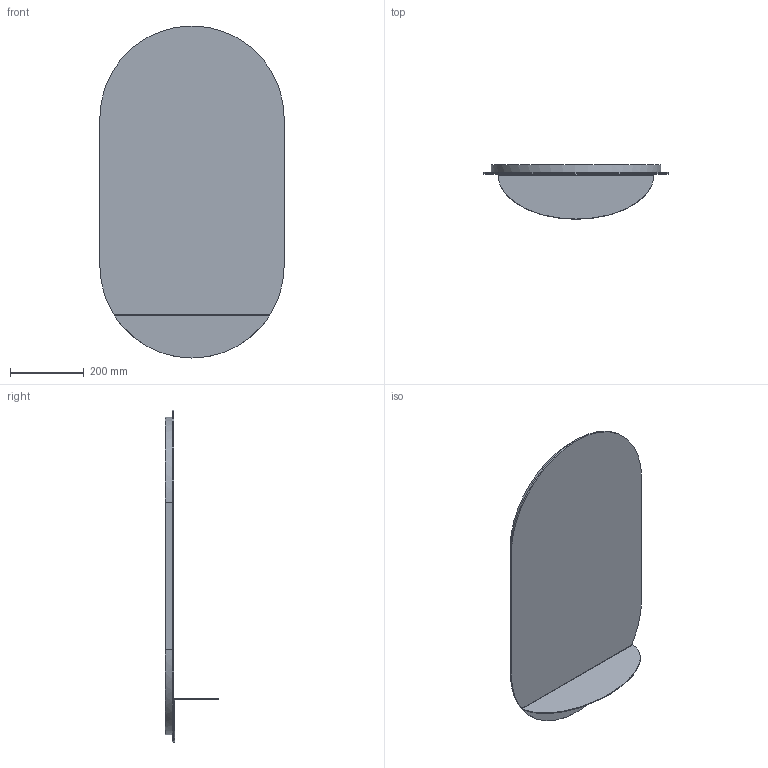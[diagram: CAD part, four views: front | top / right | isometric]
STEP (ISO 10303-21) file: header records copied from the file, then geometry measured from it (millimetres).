
FILE_DESCRIPTION(/* description */ (''),/* implementation_level */ '2;1');
FILE_NAME(/* name */ 'SPECCHIO OVALE FILO LUCIDO CON MENSOLA',/* time_stamp */ '2026-07-31T14:50:18+02:00',/* author */ (''),/* organization */ (''),/* preprocessor_version */ 'ST-DEVELOPER v19.2',/* originating_system */ 'Rhino 8.33',/* authorisation */ '');
FILE_SCHEMA (('CONFIG_CONTROL_DESIGN'));
Length unit declared in the file: millimetre
Products named in the file (1): Document
Bounding box: 500 x 145.95 x 900 mm (x, y, z)
Surface area: 998222.7 mm2 (no closed solid volume)
Topology: 0 solids, 20 shells, 20 faces, 72 edges, 72 vertices
Faces by surface type: plane 10, cylinder 7, bspline 3
Entity records: 1060 total; most frequent: CARTESIAN_POINT 501, ORIENTED_EDGE 72, EDGE_CURVE 72, VERTEX_POINT 72, DIRECTION 45, B_SPLINE_CURVE_WITH_KNOTS 40, AXIS2_PLACEMENT_3D 31, SHELL_BASED_SURFACE_MODEL 20
